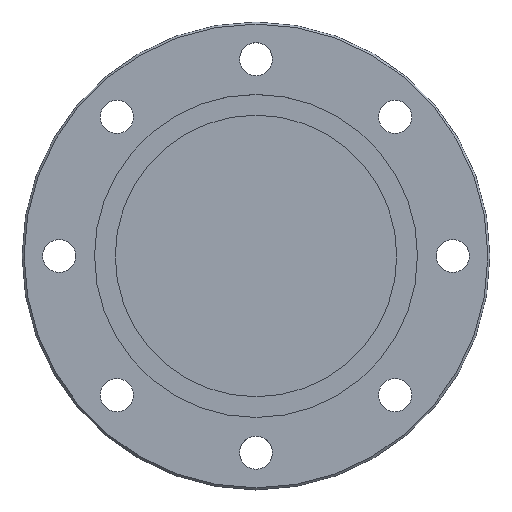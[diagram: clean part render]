
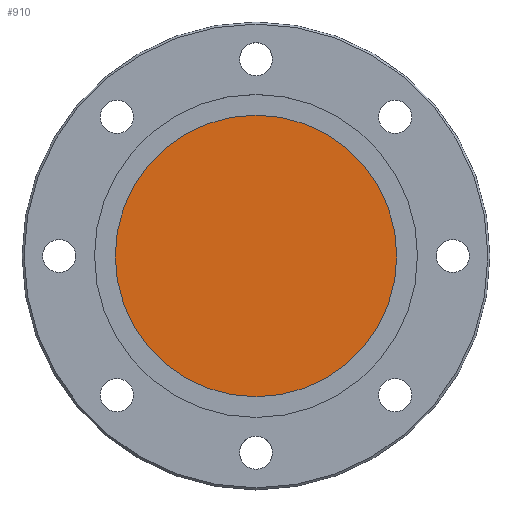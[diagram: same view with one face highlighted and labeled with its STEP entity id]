
A CAD part, top view. The second image highlights one B-rep face of the part: STEP entity #910.
In plain terms, the highlighted planar face has unit normal (0, 0, 1).
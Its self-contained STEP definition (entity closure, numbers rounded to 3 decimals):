
#56 = AXIS2_PLACEMENT_3D ( 'NONE', #387, #155, #626 ) ;
#62 = DIRECTION ( 'NONE',  ( 0., 0., -1. ) ) ;
#65 = VERTEX_POINT ( 'NONE', #487 ) ;
#155 = DIRECTION ( 'NONE',  ( 0., 0., 1. ) ) ;
#213 = FACE_OUTER_BOUND ( 'NONE', #644, .T. ) ;
#244 = DIRECTION ( 'NONE',  ( 1., 0., 0. ) ) ;
#245 = CIRCLE ( 'NONE', #681, 34. ) ;
#283 = CARTESIAN_POINT ( 'NONE',  ( 0., 34., 9.5 ) ) ;
#387 = CARTESIAN_POINT ( 'NONE',  ( 0., 0., 9.5 ) ) ;
#391 = CARTESIAN_POINT ( 'NONE',  ( 0., 0., 9.5 ) ) ;
#448 = AXIS2_PLACEMENT_3D ( 'NONE', #283, #62, #607 ) ;
#487 = CARTESIAN_POINT ( 'NONE',  ( 34., 0., 9.5 ) ) ;
#497 = VERTEX_POINT ( 'NONE', #792 ) ;
#521 = EDGE_CURVE ( 'NONE', #65, #497, #750, .T. ) ;
#607 = DIRECTION ( 'NONE',  ( -1., 0., 0. ) ) ;
#626 = DIRECTION ( 'NONE',  ( 1., 0., 0. ) ) ;
#644 = EDGE_LOOP ( 'NONE', ( #862, #1009 ) ) ;
#681 = AXIS2_PLACEMENT_3D ( 'NONE', #391, #705, #244 ) ;
#705 = DIRECTION ( 'NONE',  ( 0., 0., 1. ) ) ;
#750 = CIRCLE ( 'NONE', #56, 34. ) ;
#773 = PLANE ( 'NONE',  #448 ) ;
#792 = CARTESIAN_POINT ( 'NONE',  ( -34., 0., 9.5 ) ) ;
#862 = ORIENTED_EDGE ( 'NONE', *, *, #521, .T. ) ;
#910 = ADVANCED_FACE ( 'NONE', ( #213 ), #773, .F. ) ;
#1009 = ORIENTED_EDGE ( 'NONE', *, *, #1013, .T. ) ;
#1013 = EDGE_CURVE ( 'NONE', #497, #65, #245, .T. ) ;
